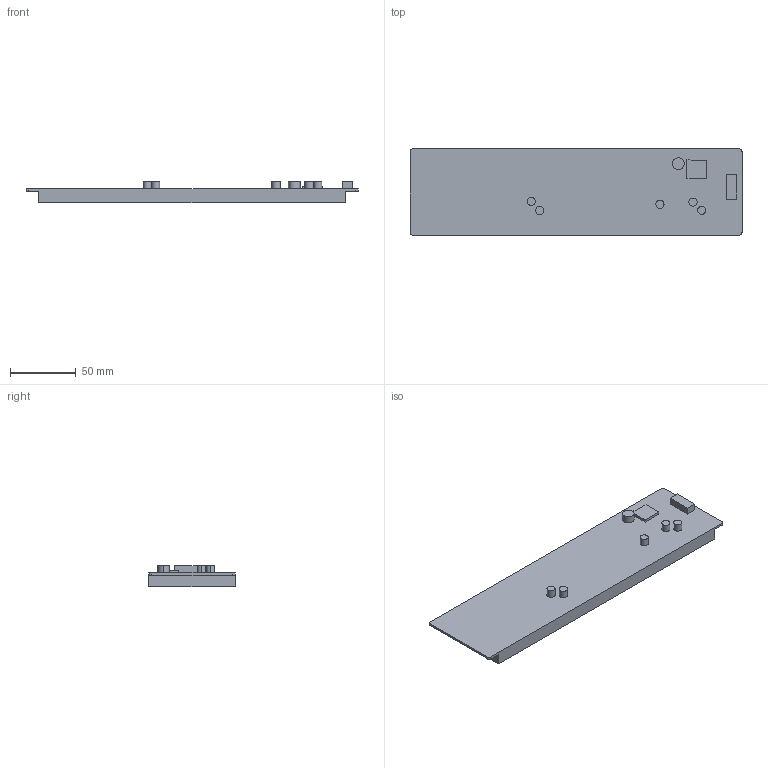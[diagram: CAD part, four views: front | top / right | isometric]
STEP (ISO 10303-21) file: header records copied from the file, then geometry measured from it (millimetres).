
FILE_DESCRIPTION((''),'2;1');
FILE_NAME('DMG19480T088-01WTC','2021-10-26T',('Administrator'),(''),'PRO/ENGINEER BY PARAMETRIC TECHNOLOGY CORPORATION, 2008380','PRO/ENGINEER BY PARAMETRIC TECHNOLOGY CORPORATION, 2008380','');
FILE_SCHEMA(('CONFIG_CONTROL_DESIGN'));
Products named in the file (1): DMG19480T088-01WTC
Bounding box: 252 x 65.4 x 16.2 mm (x, y, z)
Volume: 162557.9 mm3; surface area: 40335.3 mm2
Topology: 1 solids, 1 shells, 44 faces, 16142 edges, 26739 vertices
Faces by surface type: plane 28, cylinder 16
Entity records: 86954 total; most frequent: DIRECTION 21698, CARTESIAN_POINT 16255, TRIMMED_CURVE 16040, VECTOR 10676, LINE 10676, AXIS2_PLACEMENT_3D 5511, CIRCLE 5466, ORIENTED_EDGE 204
